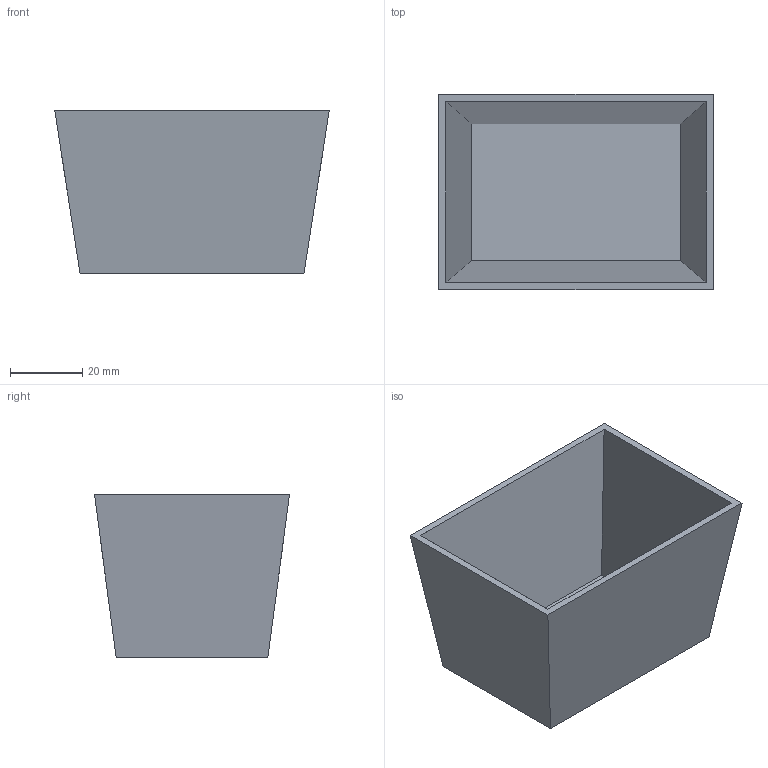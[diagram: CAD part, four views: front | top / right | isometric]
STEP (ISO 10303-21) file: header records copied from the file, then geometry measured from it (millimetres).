
FILE_DESCRIPTION(('Open CASCADE Model'),'2;1');
FILE_NAME('Open CASCADE Shape Model','2026-09-22T15:27:39',('Author'),( 'Open CASCADE'),'Open CASCADE STEP processor 7.9','Open CASCADE 7.9' ,'Unknown');
FILE_SCHEMA(('AUTOMOTIVE_DESIGN { 1 0 10303 214 1 1 1 1 }'));
Length unit declared in the file: millimetre
Products named in the file (1): Open CASCADE STEP translator 7.9 1
Bounding box: 76 x 54 x 45 mm (x, y, z)
Volume: 26088 mm3; surface area: 25427.2 mm2
Topology: 1 solids, 1 shells, 16 faces, 36 edges, 24 vertices
Faces by surface type: bspline 8, plane 8
Entity records: 882 total; most frequent: CARTESIAN_POINT 209, DIRECTION 90, ORIENTED_EDGE 72, LINE 72, VECTOR 72, PCURVE 72, DEFINITIONAL_REPRESENTATION 72, EDGE_CURVE 36
